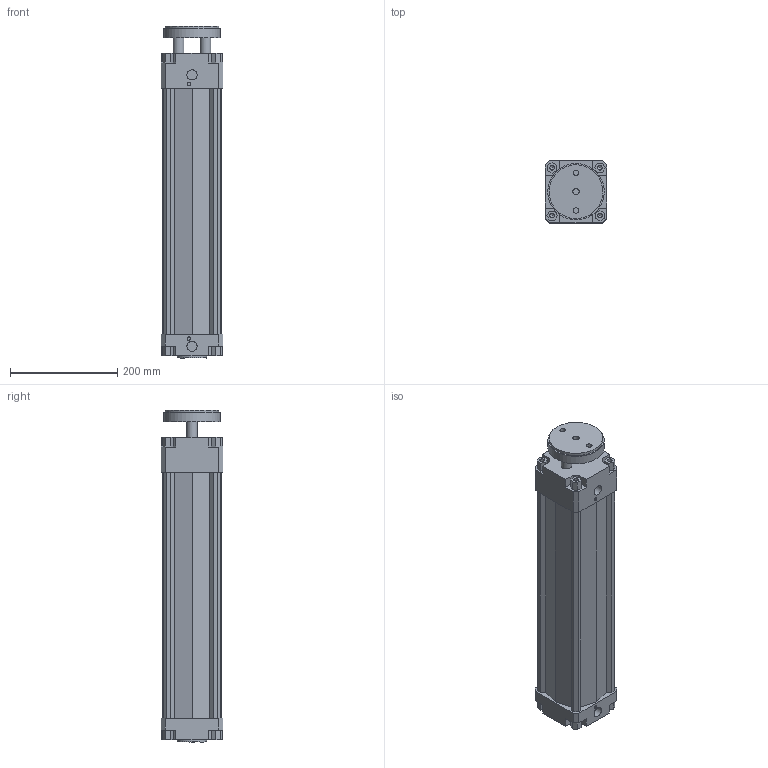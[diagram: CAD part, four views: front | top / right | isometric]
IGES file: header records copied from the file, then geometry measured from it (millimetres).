
Global section: file name: 134#_100_0400_01; native system: Autodesk Inventor 2014; preprocessor: unknown; author: A. Manieri; date: 20161006.165345; units: millimetre
Bounding box: 115 x 115 x 618 mm (x, y, z)
Volume: 3351021.8 mm3; surface area: 587714.4 mm2
Topology: 2 solids, 2 shells, 180 faces, 491 edges, 335 vertices
Faces by surface type: bspline 180
